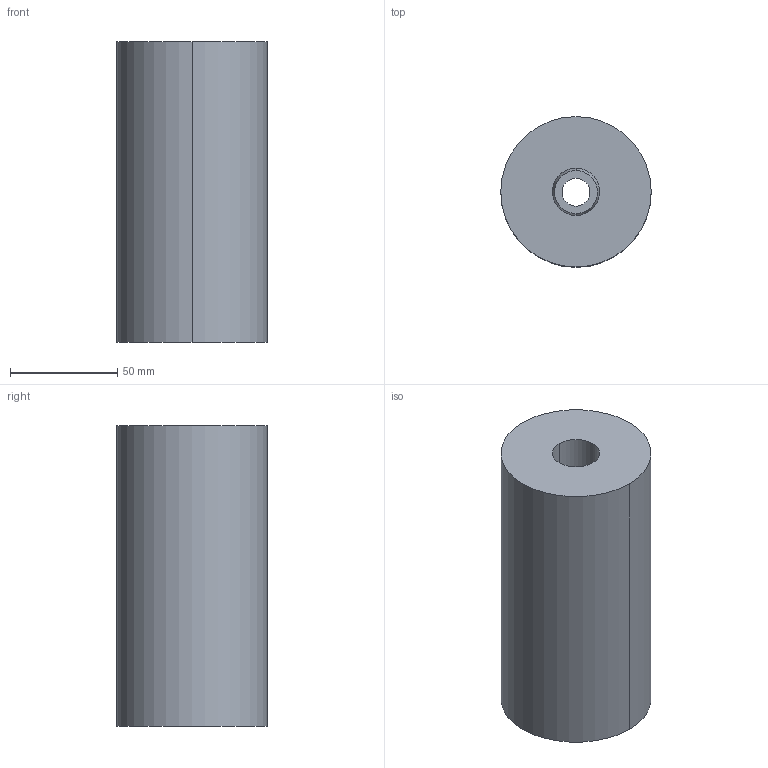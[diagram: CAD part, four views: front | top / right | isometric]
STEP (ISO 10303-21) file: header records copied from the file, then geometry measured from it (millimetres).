
FILE_DESCRIPTION(/* description */ (''),/* implementation_level */ '2;1');
FILE_NAME(/* name */ '3d_esu7022140_07036_r00.stp',/* time_stamp */ '2011-01-10T14:15:39+09:00',/* author */ ('MISUMI'),/* organization */ (''),/* preprocessor_version */ 'ST-DEVELOPER v11',/* originating_system */ 'UGS - NX 5.0',/* authorisation */ '');
FILE_SCHEMA (('CONFIG_CONTROL_DESIGN'));
Length unit declared in the file: millimetre
Products named in the file (1): 3d_esu7022140_07036_r00
Bounding box: 70 x 70 x 140 mm (x, y, z)
Volume: 495061.3 mm3; surface area: 51368.2 mm2
Topology: 2 solids, 2 shells, 18 faces, 36 edges, 22 vertices
Faces by surface type: cylinder 10, plane 4, cone 4
Entity records: 566 total; most frequent: DIRECTION 96, CARTESIAN_POINT 77, ORIENTED_EDGE 72, AXIS2_PLACEMENT_3D 41, EDGE_CURVE 36, EDGE_LOOP 22, CIRCLE 22, VERTEX_POINT 22
